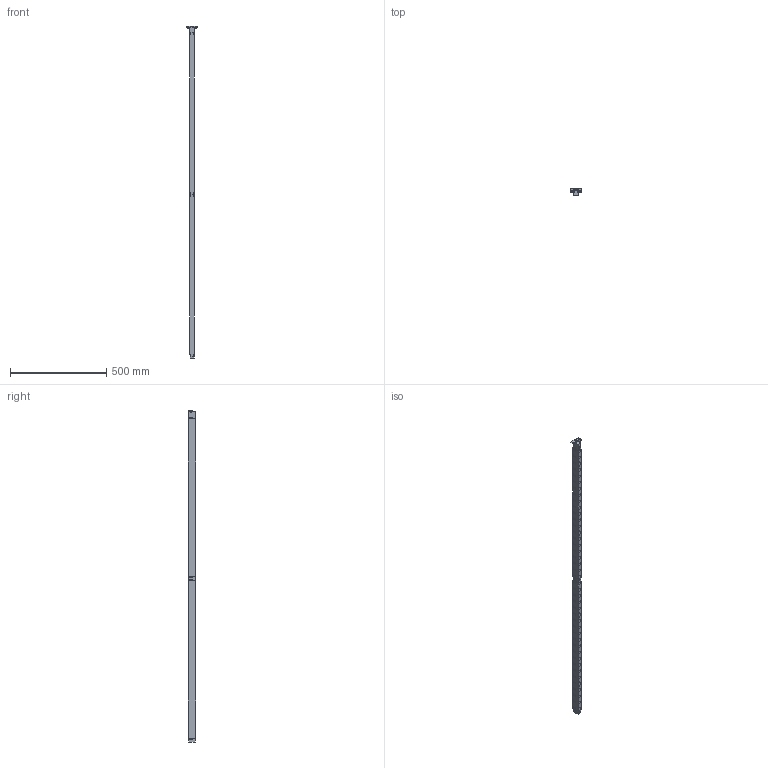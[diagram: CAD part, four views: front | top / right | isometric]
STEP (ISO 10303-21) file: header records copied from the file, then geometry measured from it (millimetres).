
FILE_DESCRIPTION(/* description */ (''),/* implementation_level */ '2;1');
FILE_NAME(/* name */ 'S:\EASCN Vault\Designs\Standard Part\DIE LIFTERS\EHB\EHB- 3D step\EHB22 - 3D step complete serie\EHB 22-42.stp',/* time_stamp */ '2019-11-21T16:04:43+08:00',/* author */ ('yue.yang'),/* organization */ (''),/* preprocessor_version */ 'ST-DEVELOPER v17',/* originating_system */ 'Autodesk Inventor 2019',/* authorisation */ '');
FILE_SCHEMA (('AUTOMOTIVE_DESIGN { 1 0 10303 214 3 1 1 }'));
Products named in the file (1): EHB 22-42_Shrinkwrap_1
Bounding box: 58 x 37.8 x 1729 mm (x, y, z)
Volume: 1107793.3 mm3; surface area: 437700.4 mm2
Topology: 145 solids, 145 shells, 1391 faces, 3842 edges, 2784 vertices
Faces by surface type: plane 482, cylinder 446, cone 211, torus 210, sphere 42
Full cylindrical faces by diameter (mm): 3 x3, 4.134 x1, 5 x27, 5.5 x5, 6 x44, 6.647 x2, 8 x2, 10 x8, 10.5 x1, 12.2 x42, 16 x42, 16.4 x42, 17.05 x42, 19.05 x42, 19.2 x42
Entity records: 52299 total; most frequent: CARTESIAN_POINT 13071, DIRECTION 8585, ORIENTED_EDGE 7420, AXIS2_PLACEMENT_3D 3817, EDGE_CURVE 3710, VERTEX_POINT 2784, CIRCLE 2423, EDGE_LOOP 1798
